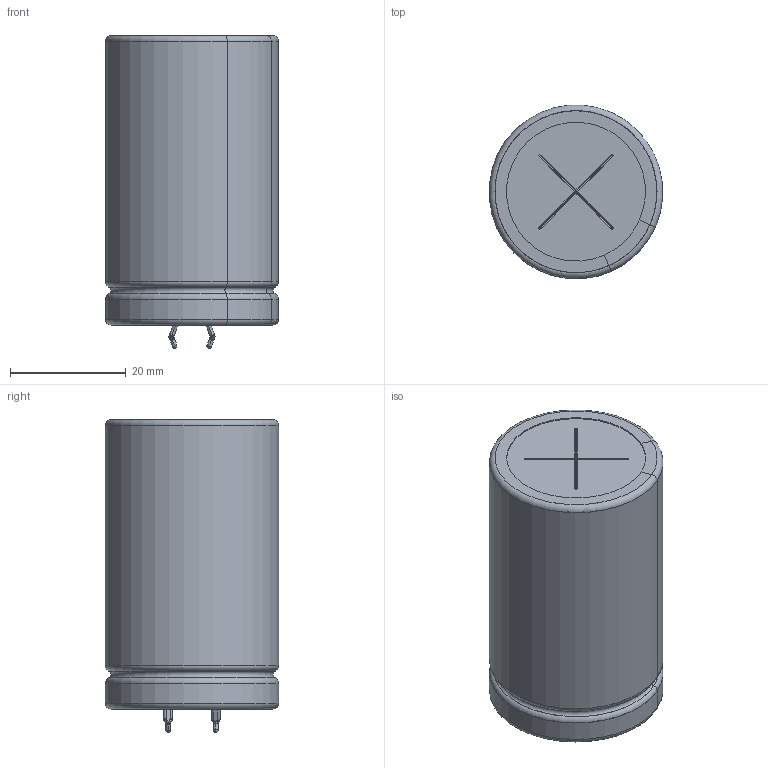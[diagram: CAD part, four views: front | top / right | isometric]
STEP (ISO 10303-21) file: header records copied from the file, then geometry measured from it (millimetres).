
FILE_DESCRIPTION(/* description */ (''),/* implementation_level */ '2;1');
FILE_NAME(/* name */ '30x50_Snap.stp',/* time_stamp */ '2017-09-11T16:10:58+09:00',/* author */ (''),/* organization */ (''),/* preprocessor_version */ 'ST-DEVELOPER v16',/* originating_system */ 'SIEMENS PLM Software NX 11.0',/* authorisation */ '');
FILE_SCHEMA (('AUTOMOTIVE_DESIGN { 1 0 10303 214 3 1 1 1 }'));
Length unit declared in the file: millimetre
Products named in the file (1): 30x50_Snap_0
Bounding box: 29.91 x 29.91 x 54.02 mm (x, y, z)
Volume: 35009.5 mm3; surface area: 16530.2 mm2
Topology: 5 solids, 5 shells, 208 faces, 523 edges, 310 vertices
Faces by surface type: cylinder 76, plane 75, torus 25, sphere 20, bspline 12
Full cylindrical faces by diameter (mm): 4 x2, 29.6 x2
Entity records: 6789 total; most frequent: CARTESIAN_POINT 1265, DIRECTION 1128, ORIENTED_EDGE 988, EDGE_CURVE 494, AXIS2_PLACEMENT_3D 437, VERTEX_POINT 310, LINE 254, VECTOR 254
